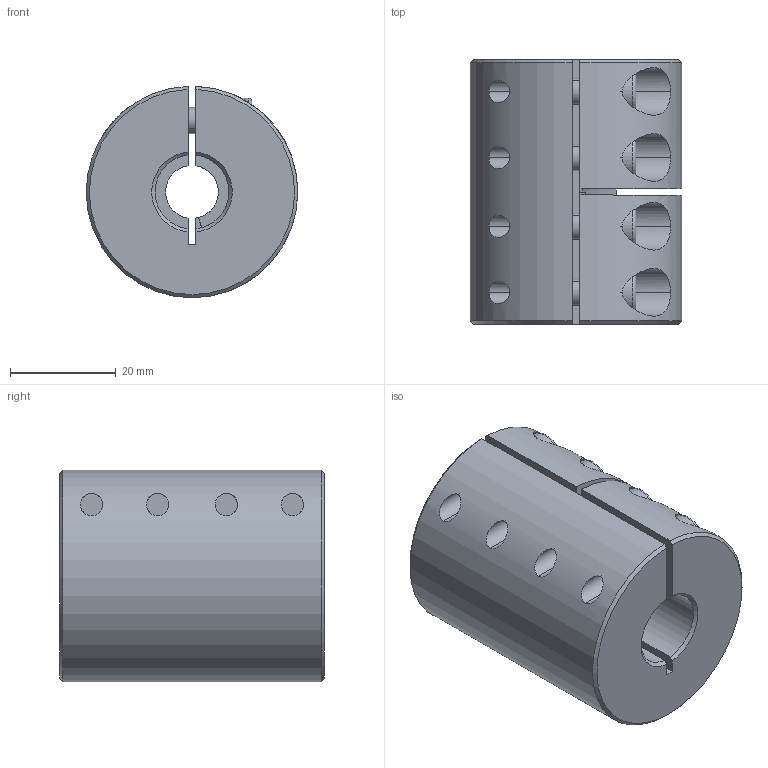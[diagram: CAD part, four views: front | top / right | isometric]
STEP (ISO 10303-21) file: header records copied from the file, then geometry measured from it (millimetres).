
FILE_DESCRIPTION (( 'STEP AP214' ), '1' );
FILE_NAME ('LL-B-D40L50-10-14½¨Ä£.STEP', '2022-07-22T00:16:52', ( '' ), ( '' ), 'SwSTEP 2.0', 'SolidWorks 2022', '' );
FILE_SCHEMA (( 'AUTOMOTIVE_DESIGN' ));
Length unit declared in the file: millimetre
Products named in the file (1): LL-B-D40L50-10-14膘耀
Bounding box: 40 x 50 x 39.99 mm (x, y, z)
Volume: 53592.6 mm3; surface area: 15563 mm2
Topology: 1 solids, 1 shells, 182 faces, 463 edges, 291 vertices
Faces by surface type: plane 88, cylinder 71, cone 15, torus 8
Entity records: 6015 total; most frequent: CARTESIAN_POINT 1525, DIRECTION 971, ORIENTED_EDGE 910, EDGE_CURVE 455, AXIS2_PLACEMENT_3D 377, VERTEX_POINT 291, VECTOR 217, LINE 217
